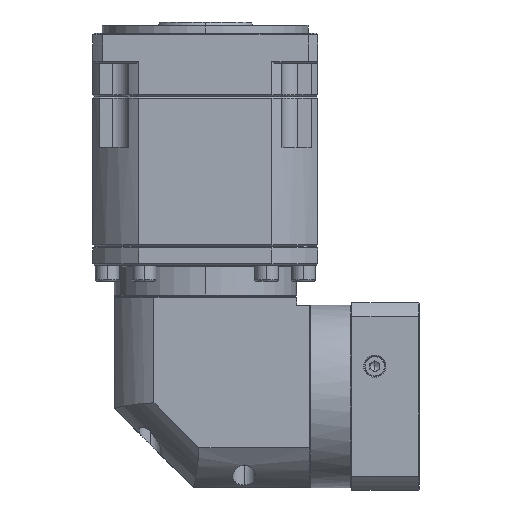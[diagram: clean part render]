
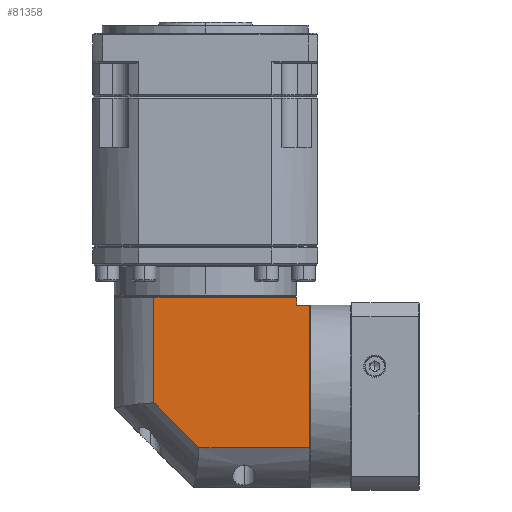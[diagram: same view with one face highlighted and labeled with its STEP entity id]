
A CAD part, left-side view. The second image highlights one B-rep face of the part: STEP entity #81358.
In plain terms, the highlighted planar face has unit normal (-1, 0, 0).
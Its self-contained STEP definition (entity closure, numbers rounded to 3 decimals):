
#7896 = LINE ( 'NONE', #121123, #57055 ) ;
#10248 = DIRECTION ( 'NONE',  ( 0., 0., 1. ) ) ;
#12243 = DIRECTION ( 'NONE',  ( 0., 1., 0. ) ) ;
#13079 = LINE ( 'NONE', #175284, #168743 ) ;
#19861 = EDGE_CURVE ( 'NONE', #45686, #96227, #40928, .T. ) ;
#21250 = AXIS2_PLACEMENT_3D ( 'NONE', #175457, #65283, #120088 ) ;
#23220 = LINE ( 'NONE', #38931, #100060 ) ;
#28041 = CARTESIAN_POINT ( 'NONE',  ( -239.831, -102.163, 6.419 ) ) ;
#31536 = VECTOR ( 'NONE', #164419, 1000. ) ;
#35678 = ORIENTED_EDGE ( 'NONE', *, *, #93083, .F. ) ;
#38931 = CARTESIAN_POINT ( 'NONE',  ( -239.831, -3.863, 107.819 ) ) ;
#40928 = LINE ( 'NONE', #88020, #104838 ) ;
#45686 = VERTEX_POINT ( 'NONE', #28041 ) ;
#49184 = ORIENTED_EDGE ( 'NONE', *, *, #159430, .T. ) ;
#57055 = VECTOR ( 'NONE', #135957, 1000. ) ;
#65283 = DIRECTION ( 'NONE',  ( 1., 0., 0. ) ) ;
#65589 = CARTESIAN_POINT ( 'NONE',  ( -239.831, -3.863, 101.319 ) ) ;
#67797 = CARTESIAN_POINT ( 'NONE',  ( -239.831, 21.237, 101.319 ) ) ;
#72034 = VERTEX_POINT ( 'NONE', #85135 ) ;
#76747 = CARTESIAN_POINT ( 'NONE',  ( -239.831, -93.763, 96.319 ) ) ;
#80887 = DIRECTION ( 'NONE',  ( 0., -1., 0. ) ) ;
#81358 = ADVANCED_FACE ( 'NONE', ( #123829 ), #135530, .F. ) ;
#84705 = LINE ( 'NONE', #67797, #118658 ) ;
#85135 = CARTESIAN_POINT ( 'NONE',  ( -239.831, -3.863, 34.757 ) ) ;
#88020 = CARTESIAN_POINT ( 'NONE',  ( -239.831, 21.237, 6.419 ) ) ;
#92692 = VERTEX_POINT ( 'NONE', #169160 ) ;
#93083 = EDGE_CURVE ( 'NONE', #156108, #168314, #84705, .T. ) ;
#94548 = ORIENTED_EDGE ( 'NONE', *, *, #133408, .T. ) ;
#96227 = VERTEX_POINT ( 'NONE', #124845 ) ;
#100060 = VECTOR ( 'NONE', #159817, 1000. ) ;
#101775 = EDGE_CURVE ( 'NONE', #92692, #45686, #157278, .T. ) ;
#104838 = VECTOR ( 'NONE', #143315, 1000. ) ;
#107537 = CARTESIAN_POINT ( 'NONE',  ( -239.831, -93.763, 101.319 ) ) ;
#108487 = CARTESIAN_POINT ( 'NONE',  ( -239.831, -102.163, 107.819 ) ) ;
#113618 = ORIENTED_EDGE ( 'NONE', *, *, #151544, .F. ) ;
#118658 = VECTOR ( 'NONE', #80887, 1000. ) ;
#120088 = DIRECTION ( 'NONE',  ( 0., 1., 0. ) ) ;
#121123 = CARTESIAN_POINT ( 'NONE',  ( -239.831, -32.201, 6.419 ) ) ;
#123002 = LINE ( 'NONE', #76747, #148629 ) ;
#123829 = FACE_OUTER_BOUND ( 'NONE', #161187, .T. ) ;
#124845 = CARTESIAN_POINT ( 'NONE',  ( -239.831, -32.201, 6.419 ) ) ;
#125555 = EDGE_CURVE ( 'NONE', #72034, #156108, #23220, .T. ) ;
#133408 = EDGE_CURVE ( 'NONE', #92692, #136747, #123002, .T. ) ;
#134847 = ORIENTED_EDGE ( 'NONE', *, *, #125555, .F. ) ;
#135530 = PLANE ( 'NONE',  #21250 ) ;
#135957 = DIRECTION ( 'NONE',  ( 0., 0.707, 0.707 ) ) ;
#136747 = VERTEX_POINT ( 'NONE', #172072 ) ;
#143315 = DIRECTION ( 'NONE',  ( 0., 1., 0. ) ) ;
#148629 = VECTOR ( 'NONE', #12243, 1000. ) ;
#151544 = EDGE_CURVE ( 'NONE', #96227, #72034, #7896, .T. ) ;
#152330 = ORIENTED_EDGE ( 'NONE', *, *, #19861, .F. ) ;
#156108 = VERTEX_POINT ( 'NONE', #65589 ) ;
#157278 = LINE ( 'NONE', #108487, #31536 ) ;
#159430 = EDGE_CURVE ( 'NONE', #136747, #168314, #13079, .T. ) ;
#159817 = DIRECTION ( 'NONE',  ( 0., 0., 1. ) ) ;
#161187 = EDGE_LOOP ( 'NONE', ( #134847, #113618, #152330, #168584, #94548, #49184, #35678 ) ) ;
#164419 = DIRECTION ( 'NONE',  ( 0., 0., -1. ) ) ;
#168314 = VERTEX_POINT ( 'NONE', #107537 ) ;
#168584 = ORIENTED_EDGE ( 'NONE', *, *, #101775, .F. ) ;
#168743 = VECTOR ( 'NONE', #10248, 1000. ) ;
#169160 = CARTESIAN_POINT ( 'NONE',  ( -239.831, -102.163, 96.319 ) ) ;
#172072 = CARTESIAN_POINT ( 'NONE',  ( -239.831, -93.763, 96.319 ) ) ;
#175284 = CARTESIAN_POINT ( 'NONE',  ( -239.831, -93.763, -18.681 ) ) ;
#175457 = CARTESIAN_POINT ( 'NONE',  ( -239.831, 21.237, 107.819 ) ) ;
